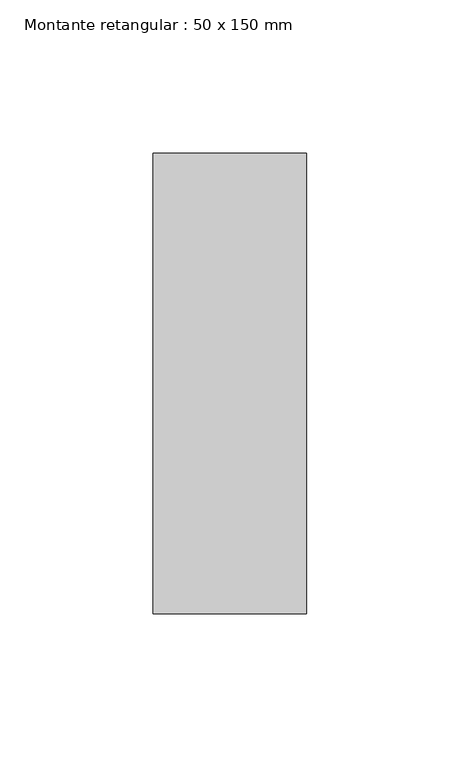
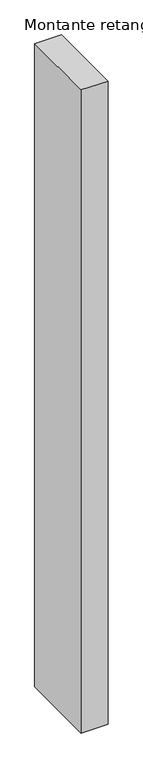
"""IFC4 building model written with IfcOpenShell, lengths in millimetres: member geometry, Montante retangular : 50 x 150 mm."""

from ifc_helpers import new_model, si_unit, frame, origin, place, context, project, spatial, polyline, outline, extrude, source, transform, mapped, element, save


def montante_retangular_50_x_150_mm_6217edde(model_context):
    return source(origin(), model_context, "Body", "SweptSolid", [
        extrude(outline(polyline([(0.0, 75.0), (0.0, -75.0), (-50.0, -75.0), (-50.0, 75.0), (0.0, 75.0)])), frame((0.0, 0.0, -1269.1666667), z_axis=(0.0, 0.0, 1.0), x_axis=(1.0, 0.0, 0.0)), (0.0, 0.0, 1.0), 1269.1666667),
    ])


if __name__ == "__main__":
    model = new_model("IFC4")
    model_context = context("Model", 3, world=origin())
    ifc_project = project(units=[si_unit("LENGTHUNIT", "METRE", prefix="MILLI")], contexts=[model_context])
    site = spatial("IfcSite", under=ifc_project)
    building = spatial("IfcBuilding", under=site)
    placement = place(None, origin())
    montante_retangular_50_x_150_mm_shape = montante_retangular_50_x_150_mm_6217edde(model_context)
    element("IfcMember", 1, ObjectType="Montante retangular : 50 x 150 mm", at=placement, inside=building, context=model_context, shape_type="MappedRepresentation", body=[
        mapped(montante_retangular_50_x_150_mm_shape, transform((0.0, 0.0, 0.0), x_axis=(1.0, 0.0, 0.0), y_axis=(0.0, 1.0, 0.0), z_axis=(0.0, 0.0, 1.0))),
    ])
    save(model, "model.ifc")
